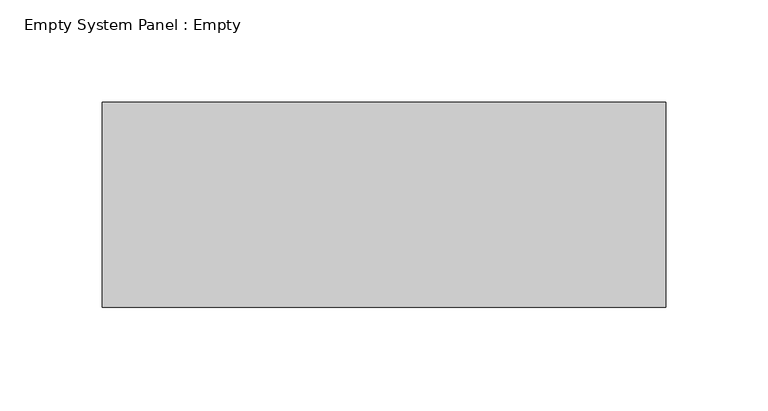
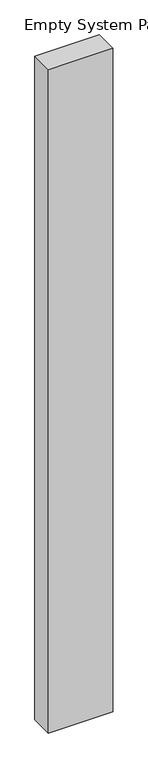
"""IFC4 building model written with IfcOpenShell, lengths in millimetres: plate geometry, Empty System Panel : Empty."""

from ifc_helpers import new_model, si_unit, origin, origin_with_axes, place, context, project, spatial, polyline, outline, extrude, source, transform, mapped, element, save


def empty_system_panel_empty_25b61279(model_context):
    return source(origin(), model_context, "Body", "SweptSolid", [
        extrude(outline(polyline([(137.5, -50.0), (-137.5, -50.0), (-137.5, 50.0), (137.5, 50.0), (137.5, -50.0)])), origin_with_axes(), (0.0, 0.0, 1.0), 3000.0),
    ])


if __name__ == "__main__":
    model = new_model("IFC4")
    model_context = context("Model", 3, world=origin())
    ifc_project = project(units=[si_unit("LENGTHUNIT", "METRE", prefix="MILLI")], contexts=[model_context])
    site = spatial("IfcSite", under=ifc_project)
    building = spatial("IfcBuilding", under=site)
    placement = place(None, origin())
    empty_system_panel_empty_shape = empty_system_panel_empty_25b61279(model_context)
    element("IfcPlate", 1, ObjectType="Empty System Panel : Empty", at=placement, inside=building, context=model_context, shape_type="MappedRepresentation", body=[
        mapped(empty_system_panel_empty_shape, transform((0.0, 0.0, 0.0), x_axis=(1.0, 0.0, 0.0), y_axis=(0.0, 1.0, 0.0), z_axis=(0.0, 0.0, 1.0))),
    ])
    save(model, "model.ifc")
